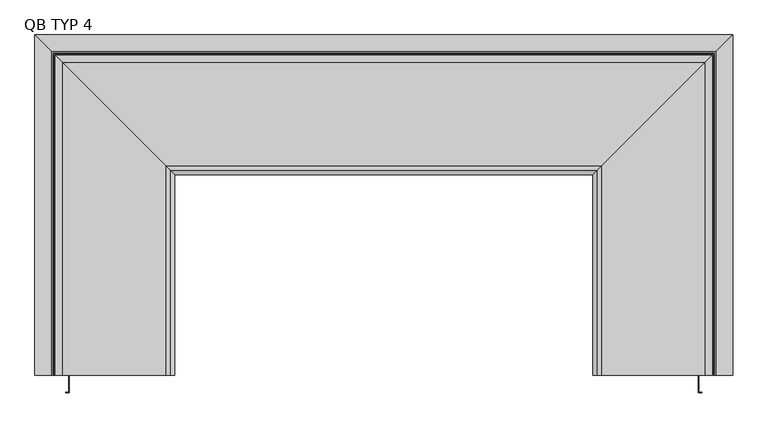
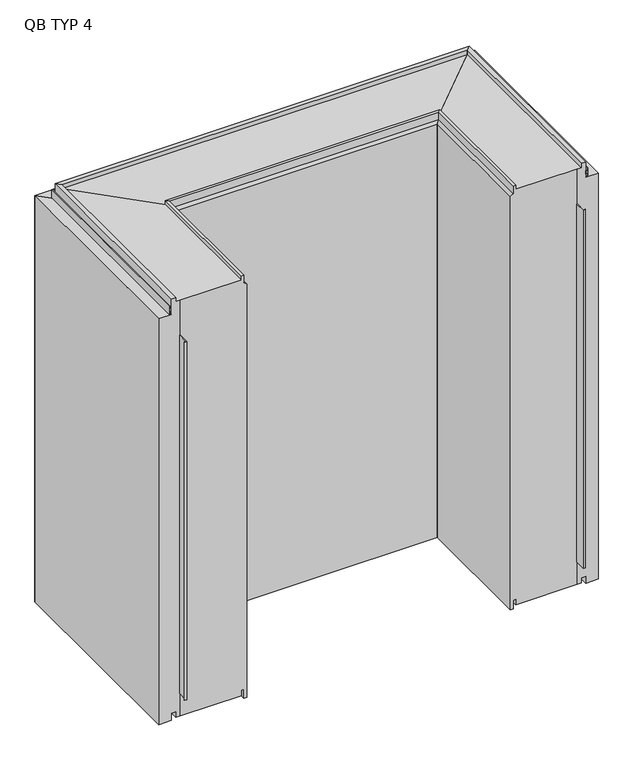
"""IFC4 building model written with IfcOpenShell, lengths in millimetres: plate geometry, TR_C_H_QBISS_U_Corner_Tr : QB TYP 4."""

from ifc_helpers import new_model, si_unit, frame, origin, place, context, project, spatial, polyline, outline, extrude, faceted_brep, source, transform, mapped, element, save


def qb_typ_4_36cb559f(model_context):
    return source(origin(), model_context, "Body", "SolidModel", [
        extrude(outline(polyline([(-451.0, -512.5), (-456.0, -512.5), (-456.0, -511.7), (-451.8261798, -511.7), (-451.8261798, -487.3), (-451.0, -487.3), (-451.0, -512.5)])), frame((0.0, 0.0, 54.0), z_axis=(0.0, 0.0, 1.0), x_axis=(1.0, 0.0, 0.0)), (0.0, 0.0, 1.0), 862.0),
        faceted_brep([(-300.0, -487.5, -8.0), (-300.0, -487.5, 986.0), (-306.0, -487.5, 992.0), (-306.0, -487.5, 1010.0), (-312.0, -487.5, 1010.0), (-312.0, -487.5, 1000.0), (-451.0, -487.5, 1000.0), (-451.0, -487.5, 0.0), (-312.0, -487.5, 0.0), (-312.0, -487.5, 13.0), (-306.0, -487.5, 13.0), (-306.0, -487.5, -8.0), (-306.0, -194.0, -8.0), (-300.0, -200.0, -8.0), (-306.0, -194.0, 13.0), (-312.0, -188.0, 13.0), (-312.0, -188.0, 0.0), (-451.0, -487.3, 0.0), (-461.0, -487.3, 0.0), (-461.0, -39.0, 0.0), (-461.0, -487.3, 13.0), (-461.0, -39.0, 13.0), (-471.0, -487.3, 13.0), (-471.0, -29.0, 13.0), (-471.0, -487.3, -4.0), (-471.0, -29.0, -4.0), (-500.0, 0.0, -4.0), (-500.0, -487.3, -4.0), (-500.0, -487.3, 973.0), (-500.0, 0.0, 973.0), (-471.0, -487.3, 973.0), (-471.0, -29.0, 973.0), (-471.0, -487.3, 1010.0), (-471.0, -29.0, 1010.0), (-461.0, -487.3, 1010.0), (-461.0, -39.0, 1010.0), (-461.0, -487.3, 1000.0), (-461.0, -39.0, 1000.0), (-312.0, -188.0, 1000.0), (-451.0, -487.3, 1000.0), (-312.0, -188.0, 1010.0), (-306.0, -194.0, 1010.0), (-306.0, -194.0, 992.0), (-300.0, -200.0, 986.0)], [[[0, 1, 2, 3, 4, 5, 6, 7, 8, 9, 10, 11]], [[11, 12, 13, 0]], [[10, 14, 12, 11]], [[9, 15, 14, 10]], [[8, 16, 15, 9]], [[7, 17, 18, 19, 16, 8]], [[20, 21, 19, 18]], [[22, 23, 21, 20]], [[24, 25, 23, 22]], [[26, 25, 24, 27]], [[27, 28, 29, 26]], [[28, 30, 31, 29]], [[32, 33, 31, 30]], [[34, 35, 33, 32]], [[36, 37, 35, 34]], [[5, 38, 37, 36, 39, 6]], [[4, 40, 38, 5]], [[3, 41, 40, 4]], [[2, 42, 41, 3]], [[1, 43, 42, 2]], [[0, 13, 43, 1]], [[17, 7, 6, 39]], [[39, 36, 34, 32, 30, 28, 27, 24, 22, 20, 18, 17]], [[12, 14, 15, 16, 19, 21, 23, 25, 26, 29, 31, 33, 35, 37, 38, 40, 41, 42, 43, 13]]]),
        extrude(outline(polyline([(451.0, -512.5), (451.0, -487.3), (451.8261798, -487.3), (451.8261798, -511.7), (456.0, -511.7), (456.0, -512.5), (451.0, -512.5)])), frame((0.0, 0.0, 54.0), z_axis=(0.0, 0.0, 1.0), x_axis=(1.0, 0.0, 0.0)), (0.0, 0.0, 1.0), 862.0),
        faceted_brep([(300.0, -487.5, -8.0), (306.0, -487.5, -8.0), (306.0, -487.5, 13.0), (312.0, -487.5, 13.0), (312.0, -487.5, 0.0), (451.0, -487.5, 0.0), (451.0, -487.5, 1000.0), (312.0, -487.5, 1000.0), (312.0, -487.5, 1010.0), (306.0, -487.5, 1010.0), (306.0, -487.5, 992.0), (300.0, -487.5, 986.0), (300.0, -200.0, -8.0), (306.0, -194.0, -8.0), (306.0, -194.0, 13.0), (312.0, -188.0, 13.0), (312.0, -188.0, 0.0), (461.0, -39.0, 0.0), (461.0, -487.3, 0.0), (451.0, -487.3, 0.0), (461.0, -487.3, 13.0), (461.0, -39.0, 13.0), (471.0, -487.3, 13.0), (471.0, -29.0, 13.0), (471.0, -487.3, -4.0), (471.0, -29.0, -4.0), (500.0, 0.0, -4.0), (500.0, -487.3, -4.0), (500.0, 0.0, 973.0), (500.0, -487.3, 973.0), (471.0, -29.0, 973.0), (471.0, -487.3, 973.0), (471.0, -487.3, 1010.0), (471.0, -29.0, 1010.0), (461.0, -487.3, 1010.0), (461.0, -39.0, 1010.0), (461.0, -487.3, 1000.0), (461.0, -39.0, 1000.0), (451.0, -487.3, 1000.0), (312.0, -188.0, 1000.0), (312.0, -188.0, 1010.0), (306.0, -194.0, 1010.0), (306.0, -194.0, 992.0), (300.0, -200.0, 986.0)], [[[0, 1, 2, 3, 4, 5, 6, 7, 8, 9, 10, 11]], [[1, 0, 12, 13]], [[2, 1, 13, 14]], [[3, 2, 14, 15]], [[4, 3, 15, 16]], [[5, 4, 16, 17, 18, 19]], [[20, 18, 17, 21]], [[22, 20, 21, 23]], [[24, 22, 23, 25]], [[26, 27, 24, 25]], [[27, 26, 28, 29]], [[29, 28, 30, 31]], [[32, 31, 30, 33]], [[34, 32, 33, 35]], [[36, 34, 35, 37]], [[7, 6, 38, 36, 37, 39]], [[8, 7, 39, 40]], [[9, 8, 40, 41]], [[10, 9, 41, 42]], [[11, 10, 42, 43]], [[0, 11, 43, 12]], [[19, 38, 6, 5]], [[38, 19, 18, 20, 22, 24, 27, 29, 31, 32, 34, 36]], [[13, 12, 43, 42, 41, 40, 39, 37, 35, 33, 30, 28, 26, 25, 23, 21, 17, 16, 15, 14]]]),
        faceted_brep([(461.0, -39.0, 0.0), (312.0, -188.0, 0.0), (-312.0, -188.0, 0.0), (-461.0, -39.0, 0.0), (461.0, -39.0, 13.0), (-461.0, -39.0, 13.0), (471.0, -29.0, 13.0), (-471.0, -29.0, 13.0), (471.0, -29.0, -4.0), (-471.0, -29.0, -4.0), (-500.0, 0.0, -4.0), (500.0, 0.0, -4.0), (-500.0, 0.0, 973.0), (500.0, 0.0, 973.0), (-471.0, -29.0, 973.0), (471.0, -29.0, 973.0), (471.0, -29.0, 1010.0), (-471.0, -29.0, 1010.0), (461.0, -39.0, 1010.0), (-461.0, -39.0, 1010.0), (461.0, -39.0, 1000.0), (-461.0, -39.0, 1000.0), (312.0, -188.0, 1000.0), (-312.0, -188.0, 1000.0), (312.0, -188.0, 1010.0), (-312.0, -188.0, 1010.0), (306.0, -194.0, 1010.0), (-306.0, -194.0, 1010.0), (306.0, -194.0, 992.0), (-306.0, -194.0, 992.0), (300.0, -200.0, 986.0), (-300.0, -200.0, 986.0), (300.0, -200.0, -8.0), (-300.0, -200.0, -8.0), (306.0, -194.0, -8.0), (-306.0, -194.0, -8.0), (306.0, -194.0, 13.0), (-306.0, -194.0, 13.0), (312.0, -188.0, 13.0), (-312.0, -188.0, 13.0)], [[[0, 1, 2, 3]], [[4, 0, 3, 5]], [[6, 4, 5, 7]], [[8, 6, 7, 9]], [[10, 11, 8, 9]], [[11, 10, 12, 13]], [[13, 12, 14, 15]], [[16, 15, 14, 17]], [[18, 16, 17, 19]], [[20, 18, 19, 21]], [[22, 20, 21, 23]], [[24, 22, 23, 25]], [[26, 24, 25, 27]], [[28, 26, 27, 29]], [[30, 28, 29, 31]], [[32, 30, 31, 33]], [[34, 32, 33, 35]], [[36, 34, 35, 37]], [[38, 36, 37, 39]], [[1, 38, 39, 2]], [[1, 0, 4, 6, 8, 11, 13, 15, 16, 18, 20, 22, 24, 26, 28, 30, 32, 34, 36, 38]], [[3, 2, 39, 37, 35, 33, 31, 29, 27, 25, 23, 21, 19, 17, 14, 12, 10, 9, 7, 5]]]),
        faceted_brep([(476.0, -487.3, 994.5), (474.5001683, -487.3, 994.5), (474.5001683, -487.3, 987.7023593), (472.0001707, -487.3, 987.7023593), (472.0001707, -487.3, 988.5023593), (471.2001572, -487.3, 988.5023593), (471.2001572, -487.3, 980.5023028), (472.0001707, -487.3, 980.5023028), (472.0001707, -487.3, 981.3023028), (474.5001683, -487.3, 981.3023028), (474.5001683, -487.3, 974.5), (476.0, -487.3, 974.5), (-476.0, -487.3, 994.5), (-476.0, -487.3, 974.5), (-474.5001683, -487.3, 974.5), (-474.5001683, -487.3, 981.3023028), (-472.0001707, -487.3, 981.3023028), (-472.0001707, -487.3, 980.5023028), (-471.2001572, -487.3, 980.5023028), (-471.2001572, -487.3, 988.5023593), (-472.0001707, -487.3, 988.5023593), (-472.0001707, -487.3, 987.7023593), (-474.5001683, -487.3, 987.7023593), (-474.5001683, -487.3, 994.5), (476.0, -24.0, 994.5), (-476.0, -24.0, 994.5), (-474.5001683, -25.4998317, 994.5), (474.5001683, -25.4998317, 994.5), (474.5001683, -25.4998317, 987.7023593), (-474.5001683, -25.4998317, 987.7023593), (-472.0001707, -27.9998293, 987.7023593), (472.0001707, -27.9998293, 987.7023593), (472.0001707, -27.9998293, 988.5023593), (-472.0001707, -27.9998293, 988.5023593), (-471.2001572, -28.7998428, 988.5023593), (471.2001572, -28.7998428, 988.5023593), (471.2001572, -28.7998428, 980.5023028), (-471.2001572, -28.7998428, 980.5023028), (-472.0001707, -27.9998293, 980.5023028), (472.0001707, -27.9998293, 980.5023028), (472.0001707, -27.9998293, 981.3023028), (-472.0001707, -27.9998293, 981.3023028), (-474.5001683, -25.4998317, 981.3023028), (474.5001683, -25.4998317, 981.3023028), (474.5001683, -25.4998317, 974.5), (-474.5001683, -25.4998317, 974.5), (-476.0, -24.0, 974.5), (476.0, -24.0, 974.5)], [[[0, 1, 2, 3, 4, 5, 6, 7, 8, 9, 10, 11]], [[12, 13, 14, 15, 16, 17, 18, 19, 20, 21, 22, 23]], [[1, 0, 24, 25, 12, 23, 26, 27]], [[2, 1, 27, 28]], [[3, 2, 28, 29, 22, 21, 30, 31]], [[4, 3, 31, 32]], [[5, 4, 32, 33, 20, 19, 34, 35]], [[6, 5, 35, 36]], [[7, 6, 36, 37, 18, 17, 38, 39]], [[8, 7, 39, 40]], [[9, 8, 40, 41, 16, 15, 42, 43]], [[10, 9, 43, 44]], [[11, 10, 44, 45, 14, 13, 46, 47]], [[0, 11, 47, 24]], [[28, 27, 26, 29]], [[32, 31, 30, 33]], [[36, 35, 34, 37]], [[40, 39, 38, 41]], [[44, 43, 42, 45]], [[24, 47, 46, 25]], [[29, 26, 23, 22]], [[33, 30, 21, 20]], [[37, 34, 19, 18]], [[41, 38, 17, 16]], [[45, 42, 15, 14]], [[25, 46, 13, 12]]]),
    ])


if __name__ == "__main__":
    model = new_model("IFC4")
    model_context = context("Model", 3, world=origin())
    ifc_project = project(units=[si_unit("LENGTHUNIT", "METRE", prefix="MILLI")], contexts=[model_context])
    site = spatial("IfcSite", under=ifc_project)
    building = spatial("IfcBuilding", under=site)
    placement = place(None, origin())
    qb_typ_4_shape = qb_typ_4_36cb559f(model_context)
    element("IfcPlate", 1, ObjectType="TR_C_H_QBISS_U_Corner_Tr : QB TYP 4", at=placement, inside=building, context=model_context, shape_type="MappedRepresentation", body=[
        mapped(qb_typ_4_shape, transform((0.0, 0.0, 0.0), x_axis=(1.0, 0.0, 0.0), y_axis=(0.0, 1.0, 0.0), z_axis=(0.0, 0.0, 1.0))),
    ])
    save(model, "model.ifc")
